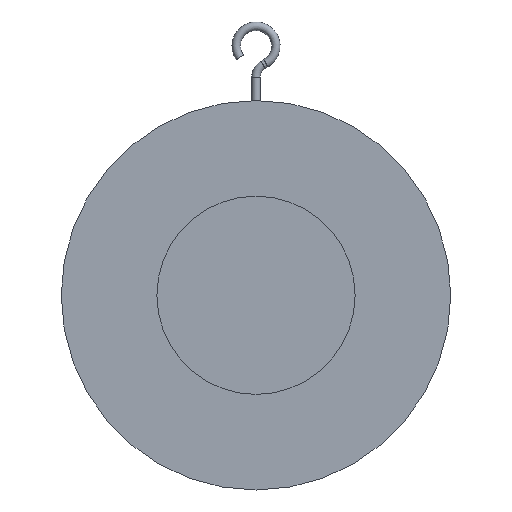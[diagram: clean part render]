
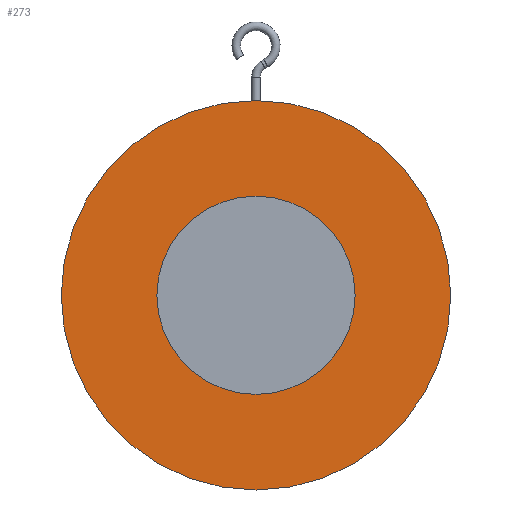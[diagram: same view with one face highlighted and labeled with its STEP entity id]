
A CAD part, front view. The second image highlights one B-rep face of the part: STEP entity #273.
In plain terms, the highlighted planar face has unit normal (0, -1, 0).
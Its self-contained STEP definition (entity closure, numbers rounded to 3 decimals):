
#273=ADVANCED_FACE('',(#525,#527),#529,.T.);
#525=FACE_BOUND('',#526,.T.);
#526=EDGE_LOOP('',(#702));
#527=FACE_BOUND('',#528,.T.);
#528=EDGE_LOOP('',(#703));
#529=PLANE('',#530);
#530=AXIS2_PLACEMENT_3D('',#531,#532,#533);
#531=CARTESIAN_POINT('',(0.,-14.,0.));
#532=DIRECTION('',(0.,-1.,0.));
#533=DIRECTION('',(0.,0.,1.));
#702=ORIENTED_EDGE('',*,*,#772,.F.);
#703=ORIENTED_EDGE('',*,*,#774,.T.);
#772=EDGE_CURVE('',#877,#877,#878,.T.);
#774=EDGE_CURVE('',#881,#881,#882,.T.);
#877=VERTEX_POINT('',#1361);
#878=CIRCLE('',#1362,137.5);
#881=VERTEX_POINT('',#1371);
#882=CIRCLE('',#1372,70.);
#1361=CARTESIAN_POINT('',(0.,-14.,137.5));
#1362=AXIS2_PLACEMENT_3D('',#1363,#1364,#1365);
#1363=CARTESIAN_POINT('',(0.,-14.,0.));
#1364=DIRECTION('',(0.,1.,0.));
#1365=DIRECTION('',(0.,0.,1.));
#1371=CARTESIAN_POINT('',(0.,-14.,70.));
#1372=AXIS2_PLACEMENT_3D('',#1373,#1374,#1375);
#1373=CARTESIAN_POINT('',(0.,-14.,0.));
#1374=DIRECTION('',(0.,1.,0.));
#1375=DIRECTION('',(0.,0.,1.));
